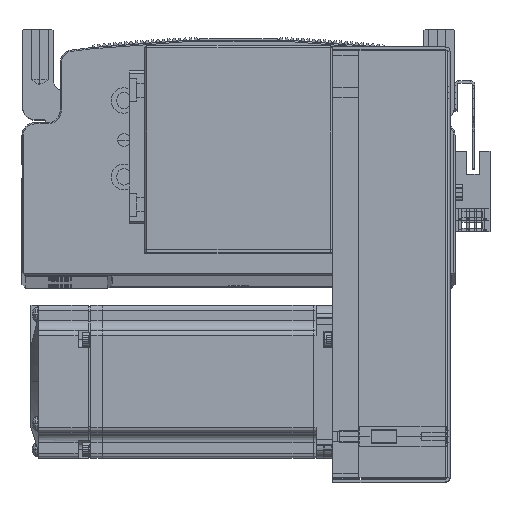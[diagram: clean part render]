
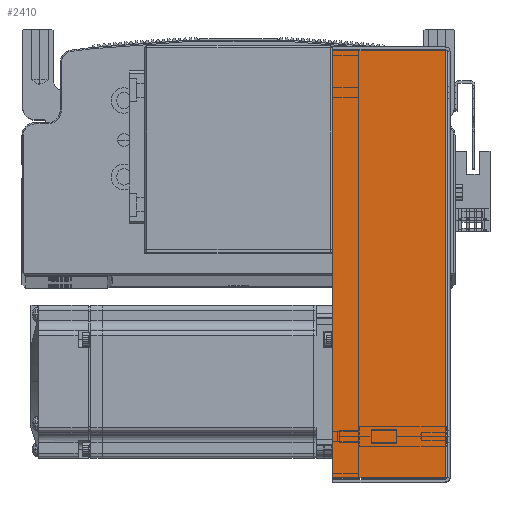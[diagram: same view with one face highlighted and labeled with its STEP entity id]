
A CAD part, top view. The second image highlights one B-rep face of the part: STEP entity #2410.
In plain terms, the highlighted planar face has unit normal (0, 0, 1) as drawn and (0, 0, -1) by its records, which use the part's own axes.
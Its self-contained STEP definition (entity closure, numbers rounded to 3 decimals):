
#2410 = ADVANCED_FACE ( 'NONE', ( #66584 ), #93379, .F. ) ;
#31967 = LINE ( 'NONE', #51534, #32005 ) ;
#31989 = LINE ( 'NONE', #51553, #32024 ) ;
#32005 = VECTOR ( 'NONE', #51566, 1000. ) ;
#32024 = VECTOR ( 'NONE', #51540, 1000. ) ;
#32123 = VECTOR ( 'NONE', #50750, 1000. ) ;
#32147 = LINE ( 'NONE', #50754, #32123 ) ;
#32178 = VECTOR ( 'NONE', #50848, 1000. ) ;
#32271 = LINE ( 'NONE', #50821, #32178 ) ;
#41956 = VERTEX_POINT ( 'NONE', #52900 ) ;
#41959 = VERTEX_POINT ( 'NONE', #52955 ) ;
#41978 = VERTEX_POINT ( 'NONE', #52915 ) ;
#41991 = VERTEX_POINT ( 'NONE', #52980 ) ;
#44647 = EDGE_CURVE ( 'NONE', #41956, #41959, #31967, .T. ) ;
#44648 = EDGE_CURVE ( 'NONE', #41978, #41991, #31989, .T. ) ;
#44695 = EDGE_CURVE ( 'NONE', #41991, #41959, #32147, .T. ) ;
#44724 = EDGE_CURVE ( 'NONE', #41978, #41956, #32271, .T. ) ;
#50750 = DIRECTION ( 'NONE',  ( 1., 0., 0. ) ) ;
#50754 = CARTESIAN_POINT ( 'NONE',  ( 84.5, 45., -40.5 ) ) ;
#50821 = CARTESIAN_POINT ( 'NONE',  ( 0., 0.737, -40.5 ) ) ;
#50848 = DIRECTION ( 'NONE',  ( 1., 0., 0. ) ) ;
#51534 = CARTESIAN_POINT ( 'NONE',  ( 83.793, 0., -40.5 ) ) ;
#51540 = DIRECTION ( 'NONE',  ( 0., 1., 0. ) ) ;
#51553 = CARTESIAN_POINT ( 'NONE',  ( -83.793, 0., -40.5 ) ) ;
#51566 = DIRECTION ( 'NONE',  ( 0., 1., 0. ) ) ;
#52900 = CARTESIAN_POINT ( 'NONE',  ( 83.793, 0.737, -40.5 ) ) ;
#52915 = CARTESIAN_POINT ( 'NONE',  ( -83.793, 0.737, -40.5 ) ) ;
#52955 = CARTESIAN_POINT ( 'NONE',  ( 83.793, 45., -40.5 ) ) ;
#52980 = CARTESIAN_POINT ( 'NONE',  ( -83.793, 45., -40.5 ) ) ;
#64613 = AXIS2_PLACEMENT_3D ( 'NONE', #93399, #93416, #93418 ) ;
#66584 = FACE_OUTER_BOUND ( 'NONE', #68568, .T. ) ;
#68568 = EDGE_LOOP ( 'NONE', ( #80477, #80378, #80502, #80460 ) ) ;
#80378 = ORIENTED_EDGE ( 'NONE', *, *, #44648, .T. ) ;
#80460 = ORIENTED_EDGE ( 'NONE', *, *, #44647, .F. ) ;
#80477 = ORIENTED_EDGE ( 'NONE', *, *, #44724, .F. ) ;
#80502 = ORIENTED_EDGE ( 'NONE', *, *, #44695, .T. ) ;
#93379 = PLANE ( 'NONE',  #64613 ) ;
#93399 = CARTESIAN_POINT ( 'NONE',  ( 0., 0., -40.5 ) ) ;
#93416 = DIRECTION ( 'NONE',  ( 0., 0., 1. ) ) ;
#93418 = DIRECTION ( 'NONE',  ( 0., -1., 0. ) ) ;
